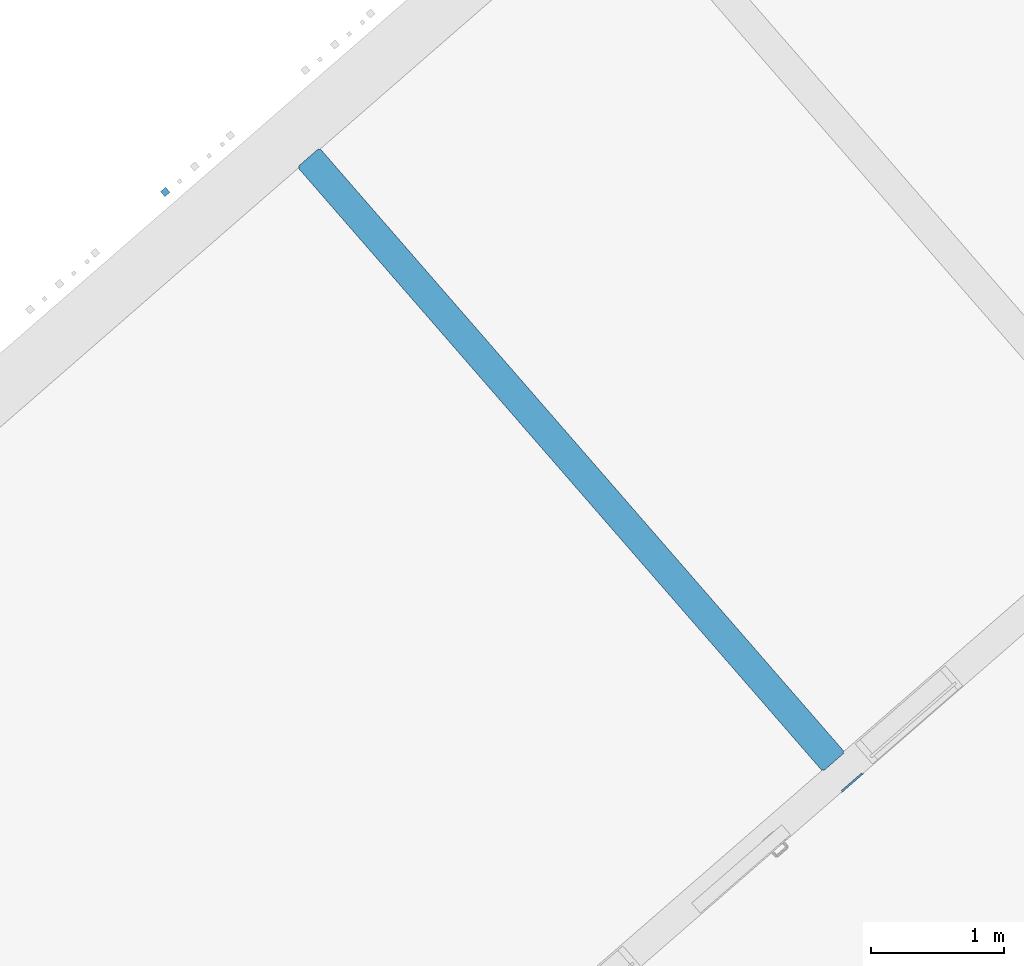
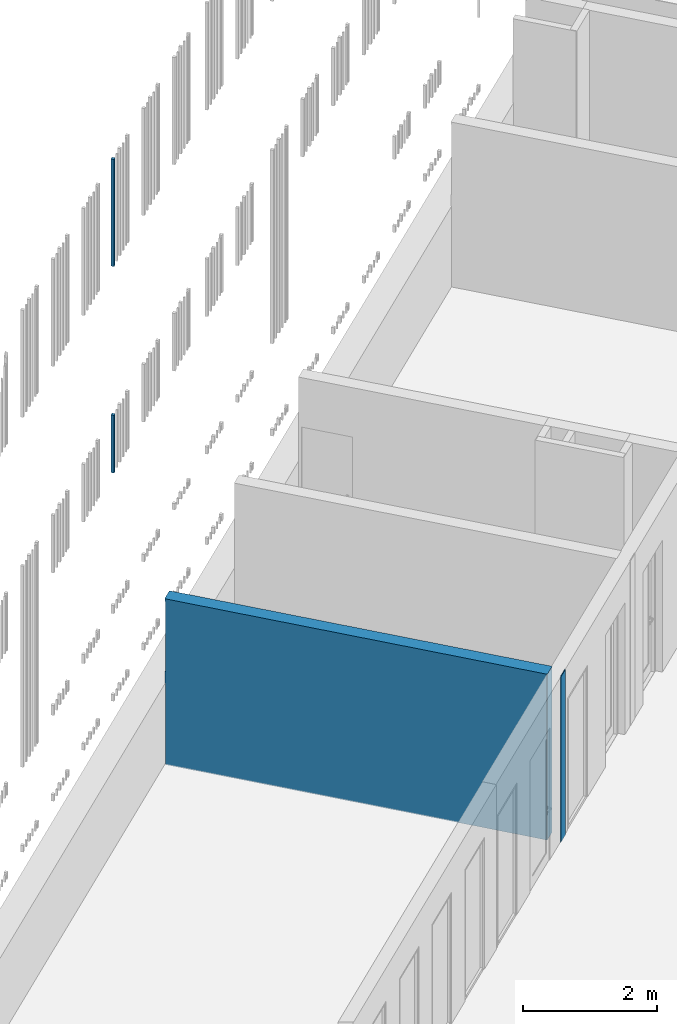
# One storey, part 50 of 124: 3 walls.
"""IFC2X3 building model written with IfcOpenShell, lengths in millimetres."""

from ifc_helpers import new_model, entity, si_unit, converted_unit, derived_unit, money_unit, direction, frame, origin_with_axes, place, context, subcontext, project, spatial, faceted_brep, material, material_list, type_object, element, save


model = new_model("IFC2X3")

# Units and contexts
model_context = context("Model", 3, precision=1e-05, world=origin_with_axes(), true_north=direction((0.0, 1.0)))
body_context = subcontext(model_context, "Body", "Model", "MODEL_VIEW")
ifc_project = project(units=[si_unit("LENGTHUNIT", "METRE", prefix="MILLI"), si_unit("AREAUNIT", "SQUARE_METRE"), si_unit("VOLUMEUNIT", "CUBIC_METRE"), converted_unit("PLANEANGLEUNIT", "DEGREE", entity("IfcPlaneAngleMeasure", 0.0174532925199), si_unit("PLANEANGLEUNIT", "RADIAN"), dimensions=[0, 0, 0, 0, 0, 0, 0]), si_unit("SOLIDANGLEUNIT", "STERADIAN"), money_unit("EUR"), converted_unit("TIMEUNIT", "Year", entity("IfcTimeMeasure", 31556926.0), si_unit("TIMEUNIT", "SECOND"), dimensions=[0, 0, 1, 0, 0, 0, 0]), si_unit("MASSUNIT", "GRAM", prefix="KILO"), si_unit("THERMODYNAMICTEMPERATUREUNIT", "DEGREE_CELSIUS"), si_unit("LUMINOUSINTENSITYUNIT", "LUMEN"), si_unit("ENERGYUNIT", "JOULE", prefix="MEGA"), derived_unit("THERMALCONDUCTANCEUNIT", [(si_unit("POWERUNIT", "WATT"), 1), (si_unit("LENGTHUNIT", "METRE"), -1), (si_unit("THERMODYNAMICTEMPERATUREUNIT", "KELVIN"), -1)]), derived_unit("SPECIFICHEATCAPACITYUNIT", [(si_unit("ENERGYUNIT", "JOULE"), 1), (si_unit("MASSUNIT", "GRAM", prefix="KILO"), -1), (si_unit("THERMODYNAMICTEMPERATUREUNIT", "KELVIN"), -1)]), derived_unit("MASSDENSITYUNIT", [(si_unit("MASSUNIT", "GRAM", prefix="KILO"), 1), (si_unit("VOLUMEUNIT", "CUBIC_METRE"), -1)])], contexts=[model_context])

# Site, building, storey
site_placement = place(None, origin_with_axes())
site = spatial("IfcSite", under=ifc_project, at=site_placement, Name="Site", CompositionType="ELEMENT")
building_placement = place(site_placement, origin_with_axes())
building = spatial("IfcBuilding", under=site, at=building_placement, Name="Building", CompositionType="ELEMENT")
storey_placement = place(building_placement, frame((0.0, 0.0, -1615.0), z_axis=(0.0, 0.0, 1.0), x_axis=(1.0, 0.0, 0.0)))
storey = spatial("IfcBuildingStorey", under=building, at=storey_placement, Name="0  korrus", CompositionType="ELEMENT", Elevation=-1615.0)

# Walls
ifc_material_1 = material(Name="Krohv - Lubjakivi")
ifc_material_2 = material(Name="Müüriplokk - Konstuktsioon")
ifc_material_list = material_list([ifc_material_1, ifc_material_1, ifc_material_2, ifc_material_2, ifc_material_1, ifc_material_1])
wall_type_1 = type_object("IfcWallType", Name="SS-01", PredefinedType="NOTDEFINED")
wall_1_placement = place(storey_placement, frame((151830.385694, 93060.8193966, -20.0), z_axis=(0.0, 0.0, 1.0), x_axis=(-0.656059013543, 0.754709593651, 0.0)))
element("IfcWall", 1, at=wall_1_placement, inside=storey, type_object=wall_type_1, material=ifc_material_list, Name="SS-01", context=body_context, shape_type="Brep", body=[
    faceted_brep([(3.55646820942, -10.0000000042, 0.0), (3.55646820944, -9.99999999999, 3020.0), (0.0, -9.99999999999, 3020.0), (0.0, -9.99999999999, 0.0), (3.5564680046, 0.0, 3020.0), (3.5564680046, -5.59907675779e-09, 0.0), (0.0, 0.0, 3020.0), (0.0, 0.0, 0.0)], [[[0, 1, 2, 3]], [[4, 1, 0, 5]], [[1, 4, 6, 2]], [[7, 3, 2, 6]], [[5, 0, 3, 7]], [[4, 5, 7, 6]]]),
    faceted_brep([(6239.99940678, -9.99999055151, 2965.0), (6239.99940678, -9.99999999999, 3020.0), (223.556468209, -10.0, 3019.99999996), (223.556468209, -10.0000002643, 0.0), (6239.99940726, -10.0000073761, 0.0), (6239.999407, -10.0000073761, 1485.0), (6239.999407, -9.99999475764, 1635.0), (6239.96594287, -9.99999055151, 1635.0), (6239.96594287, -9.99999055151, 2965.0), (6239.99940658, 0.0, 3020.0), (6239.99940658, -9.24558207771e-08, 2965.0), (223.556468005, 0.0, 3019.99999996), (223.556468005, -3.52343931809e-07, 0.0), (6239.99940726, -9.83484937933e-06, 0.0), (6239.9994068, -2.52805421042e-06, 1635.0), (6239.9994068, -9.83482095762e-06, 1485.0), (6239.96596531, -9.24558207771e-08, 1635.0), (6239.96596531, -9.24558207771e-08, 2965.0)], [[[0, 1, 2, 3, 4, 5, 6, 7, 8]], [[9, 1, 0, 10]], [[1, 9, 11, 2]], [[3, 2, 11, 12]], [[12, 13, 4, 3]], [[14, 6, 5, 4, 13, 15]], [[7, 6, 14, 16]], [[8, 7, 16, 17]], [[10, 0, 8, 17]], [[9, 10, 17, 16, 14, 15, 13, 12, 11]]]),
    faceted_brep([(13.5564723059, -210.000000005, 0.0), (13.556472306, -210.0, 3020.0), (0.0, -210.0, 3020.0), (0.0, -210.0, 0.0), (13.5564682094, -9.99999999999, 3020.0), (13.5564682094, -10.000000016, 0.0), (0.0, -9.99999999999, 3020.0), (0.0, -9.99999999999, 0.0)], [[[0, 1, 2, 3]], [[4, 1, 0, 5]], [[1, 4, 6, 2]], [[7, 3, 2, 6]], [[5, 0, 3, 7]], [[4, 5, 7, 6]]]),
    faceted_brep([(6249.99941337, -209.999990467, 2965.0), (6249.99941333, -210.0, 3020.0), (213.556472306, -210.0, 3019.99999996), (213.556472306, -210.000000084, 0.0), (6239.99940726, -210.000002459, 0.0), (6239.99940726, -210.000002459, 1485.0), (6249.99941111, -210.000002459, 1485.0), (6249.99941111, -209.999993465, 1635.0), (6249.96549417, -209.999990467, 1635.0), (6249.96549417, -209.999990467, 1685.00000054), (6239.99940726, -209.999990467, 1685.00000054), (6239.99940726, -209.999990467, 2965.0), (6249.99940922, -10.0, 3020.0), (6249.99940926, -9.99999055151, 2965.0), (213.556468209, -10.0, 3019.99999996), (213.556468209, -10.0000002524, 0.0), (6239.99940726, -10.0000073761, 0.0), (6239.99940726, -10.0000073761, 1485.0), (6249.999407, -10.0000073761, 1485.0), (6249.999407, -9.99999475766, 1635.0), (6249.96594287, -9.99999055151, 1635.0), (6249.96594287, -9.99999055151, 1685.00000054), (6239.99940726, -9.99999055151, 1685.00000054), (6239.99940726, -9.99999055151, 2965.0)], [[[0, 1, 2, 3, 4, 5, 6, 7, 8, 9, 10, 11]], [[12, 1, 0, 13]], [[1, 12, 14, 2]], [[3, 2, 14, 15]], [[15, 16, 4, 3]], [[17, 5, 4, 16]], [[18, 6, 5, 17]], [[19, 7, 6, 18]], [[8, 7, 19, 20]], [[21, 9, 8, 20]], [[9, 21, 22, 10]], [[23, 11, 10, 22]], [[13, 0, 11, 23]], [[12, 13, 23, 22, 21, 20, 19, 18, 17, 16, 15, 14]]]),
    faceted_brep([(3.55647251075, -220.0, 0.0), (3.55647251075, -220.0, 3020.0), (0.0, -220.0, 3020.0), (0.0, -220.0, 0.0), (3.55647230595, -210.0, 3020.0), (3.55647230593, -210.000000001, 0.0), (0.0, -210.0, 3020.0), (0.0, -210.0, 0.0)], [[[0, 1, 2, 3]], [[4, 1, 0, 5]], [[1, 4, 6, 2]], [[7, 3, 2, 6]], [[5, 0, 3, 7]], [[4, 5, 7, 6]]]),
    faceted_brep([(6239.9994111, -220.0, 2965.0), (6239.9994111, -220.0, 3020.0), (223.556472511, -220.0, 3019.99999996), (223.556472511, -220.0, 0.0), (6239.99940726, -220.0, 0.0), (6239.99941132, -220.0, 1485.0), (6239.99941132, -220.0, 1635.0), (6239.96547174, -220.0, 1635.0), (6239.96547174, -220.0, 2965.0), (6239.9994109, -210.0, 3020.0), (6239.9994109, -209.999990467, 2965.0), (223.556472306, -210.0, 3019.99999996), (223.556472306, -210.000000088, 0.0), (6239.99940726, -210.000002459, 0.0), (6239.99941111, -209.999993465, 1635.0), (6239.99941111, -210.000002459, 1485.0), (6239.96549417, -209.999990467, 1635.0), (6239.96549417, -209.999990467, 2965.0)], [[[0, 1, 2, 3, 4, 5, 6, 7, 8]], [[9, 1, 0, 10]], [[1, 9, 11, 2]], [[3, 2, 11, 12]], [[12, 13, 4, 3]], [[14, 6, 5, 4, 13, 15]], [[7, 6, 14, 16]], [[8, 7, 16, 17]], [[10, 0, 8, 17]], [[9, 10, 17, 16, 14, 15, 13, 12, 11]]]),
])
ifc_material_3 = material(Name="Site specified")
wall_type_2 = type_object("IfcWallType", Name="Puitfassaadi ribistik", PredefinedType="NOTDEFINED")
wall_2_placement = place(storey_placement, frame((146733.75789, 97590.1255125, 9530.0), z_axis=(0.0, 0.0, 1.0), x_axis=(0.754709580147, 0.656059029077, 0.0)))
element("IfcWall", 2, at=wall_2_placement, inside=storey, type_object=wall_type_2, material=ifc_material_3, Name="Site specified", context=body_context, shape_type="Brep", body=[
    faceted_brep([(25.0, 25.0, 1950.0), (25.0, 25.0, 0.0), (-25.0, 25.0, 0.0), (-25.0, 25.0, 1950.0), (25.0, -25.0, 1950.0), (25.0, -25.0, 0.0), (-25.0, -25.0, 0.0), (-25.0, -25.0, 1950.0)], [[[0, 1, 2, 3]], [[4, 5, 1, 0]], [[2, 1, 5, 6]], [[3, 2, 6, 7]], [[4, 0, 3, 7]], [[7, 6, 5, 4]]]),
])
wall_3_placement = place(storey_placement, frame((146733.75789, 97590.1255125, 5771.0), z_axis=(0.0, 0.0, 1.0), x_axis=(0.754709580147, 0.656059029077, 0.0)))
element("IfcWall", 3, at=wall_3_placement, inside=storey, type_object=wall_type_2, material=ifc_material_3, Name="Site specified", context=body_context, shape_type="Brep", body=[
    faceted_brep([(25.0, 25.0, 1050.0), (25.0, 25.0, 0.0), (-25.0, 25.0, 0.0), (-25.0, 25.0, 1050.0), (25.0, -25.0, 1050.0), (25.0, -25.0, 0.0), (-25.0, -25.0, 0.0), (-25.0, -25.0, 1050.0)], [[[0, 1, 2, 3]], [[4, 5, 1, 0]], [[2, 1, 5, 6]], [[3, 2, 6, 7]], [[4, 0, 3, 7]], [[7, 6, 5, 4]]]),
])

save(model, "model.ifc")
